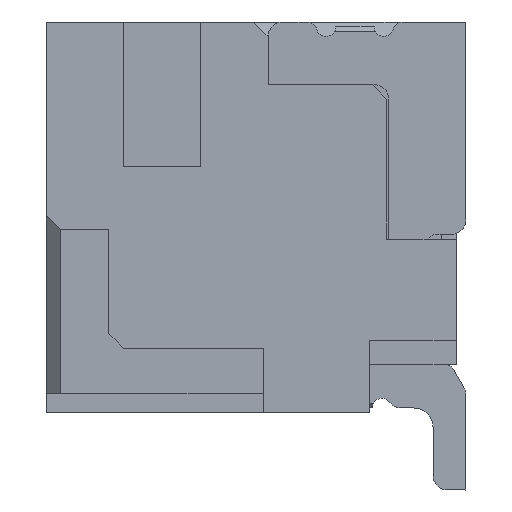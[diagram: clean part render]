
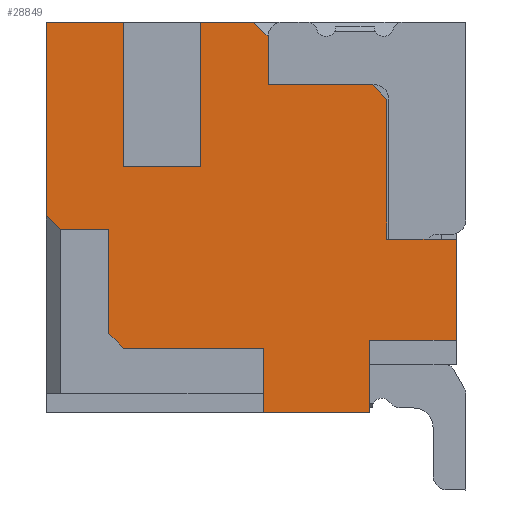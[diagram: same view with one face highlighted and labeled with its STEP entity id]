
A CAD part, left-side view. The second image highlights one B-rep face of the part: STEP entity #28849.
In plain terms, the highlighted planar face has unit normal (-1, 0, 0).
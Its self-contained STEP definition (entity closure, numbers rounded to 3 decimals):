
#1101=DIRECTION('',(0.,1.,0.));
#1102=VECTOR('',#1101,0.55);
#1103=CARTESIAN_POINT('',(0.,2.2,0.));
#1104=LINE('',#1103,#1102);
#1117=DIRECTION('',(0.,1.,0.));
#1118=VECTOR('',#1117,0.8);
#1119=CARTESIAN_POINT('',(0.,3.55,0.));
#1120=LINE('',#1119,#1118);
#1601=DIRECTION('',(0.,0.,-1.));
#1602=VECTOR('',#1601,2.);
#1603=CARTESIAN_POINT('',(0.,4.35,0.));
#1604=LINE('',#1603,#1602);
#1697=DIRECTION('',(0.,-1.,0.));
#1698=VECTOR('',#1697,1.1);
#1699=CARTESIAN_POINT('',(0.,2.1,-4.05));
#1700=LINE('',#1699,#1698);
#6595=DIRECTION('',(0.,1.,0.));
#6596=VECTOR('',#6595,0.9);
#6597=CARTESIAN_POINT('',(0.,0.1,-3.3));
#6598=LINE('',#6597,#6596);
#6599=DIRECTION('',(0.,0.,-1.));
#6600=VECTOR('',#6599,0.75);
#6601=CARTESIAN_POINT('',(0.,1.,-3.3));
#6602=LINE('',#6601,#6600);
#6603=DIRECTION('',(0.,0.,1.));
#6604=VECTOR('',#6603,0.67);
#6605=CARTESIAN_POINT('',(0.,2.1,-4.05));
#6606=LINE('',#6605,#6604);
#6607=DIRECTION('',(0.,1.,0.));
#6608=VECTOR('',#6607,1.45);
#6609=CARTESIAN_POINT('',(0.,2.1,-3.38));
#6610=LINE('',#6609,#6608);
#6611=DIRECTION('',(0.,0.707,0.707));
#6612=VECTOR('',#6611,0.212);
#6613=CARTESIAN_POINT('',(0.,3.55,-3.38));
#6614=LINE('',#6613,#6612);
#6615=DIRECTION('',(0.,0.,1.));
#6616=VECTOR('',#6615,1.08);
#6617=CARTESIAN_POINT('',(0.,3.7,-3.23));
#6618=LINE('',#6617,#6616);
#6619=DIRECTION('',(0.,1.,0.));
#6620=VECTOR('',#6619,0.5);
#6621=CARTESIAN_POINT('',(0.,3.7,-2.15));
#6622=LINE('',#6621,#6620);
#6623=DIRECTION('',(0.,0.707,0.707));
#6624=VECTOR('',#6623,0.212);
#6625=CARTESIAN_POINT('',(0.,4.2,-2.15));
#6626=LINE('',#6625,#6624);
#6627=DIRECTION('',(0.,0.,-1.));
#6628=VECTOR('',#6627,1.5);
#6629=CARTESIAN_POINT('',(0.,3.55,0.));
#6630=LINE('',#6629,#6628);
#6631=DIRECTION('',(0.,-1.,0.));
#6632=VECTOR('',#6631,0.8);
#6633=CARTESIAN_POINT('',(0.,3.55,-1.5));
#6634=LINE('',#6633,#6632);
#6635=DIRECTION('',(0.,0.,1.));
#6636=VECTOR('',#6635,1.5);
#6637=CARTESIAN_POINT('',(0.,2.75,-1.5));
#6638=LINE('',#6637,#6636);
#6639=DIRECTION('',(0.,-0.707,-0.707));
#6640=VECTOR('',#6639,0.212);
#6641=CARTESIAN_POINT('',(0.,2.2,0.));
#6642=LINE('',#6641,#6640);
#6643=DIRECTION('',(0.,0.,-1.));
#6644=VECTOR('',#6643,0.5);
#6645=CARTESIAN_POINT('',(0.,2.05,-0.15));
#6646=LINE('',#6645,#6644);
#6647=DIRECTION('',(0.,-1.,0.));
#6648=VECTOR('',#6647,1.08);
#6649=CARTESIAN_POINT('',(0.,2.05,-0.65));
#6650=LINE('',#6649,#6648);
#6651=DIRECTION('',(0.,-0.707,-0.707));
#6652=VECTOR('',#6651,0.212);
#6653=CARTESIAN_POINT('',(0.,0.97,-0.65));
#6654=LINE('',#6653,#6652);
#6655=DIRECTION('',(0.,0.,-1.));
#6656=VECTOR('',#6655,1.45);
#6657=CARTESIAN_POINT('',(0.,0.82,-0.8));
#6658=LINE('',#6657,#6656);
#6659=DIRECTION('',(0.,-1.,0.));
#6660=VECTOR('',#6659,0.72);
#6661=CARTESIAN_POINT('',(0.,0.82,-2.25));
#6662=LINE('',#6661,#6660);
#6663=DIRECTION('',(0.,0.,-1.));
#6664=VECTOR('',#6663,1.05);
#6665=CARTESIAN_POINT('',(0.,0.1,-2.25));
#6666=LINE('',#6665,#6664);
#17417=CARTESIAN_POINT('',(0.,0.1,-3.3));
#17418=VERTEX_POINT('',#17417);
#17419=CARTESIAN_POINT('',(0.,0.1,-2.25));
#17420=VERTEX_POINT('',#17419);
#17441=CARTESIAN_POINT('',(0.,2.2,0.));
#17442=VERTEX_POINT('',#17441);
#17443=CARTESIAN_POINT('',(0.,2.75,0.));
#17444=VERTEX_POINT('',#17443);
#17449=CARTESIAN_POINT('',(0.,3.55,0.));
#17450=VERTEX_POINT('',#17449);
#17451=CARTESIAN_POINT('',(0.,4.35,0.));
#17452=VERTEX_POINT('',#17451);
#18230=CARTESIAN_POINT('',(0.,2.1,-4.05));
#18231=VERTEX_POINT('',#18230);
#18232=CARTESIAN_POINT('',(0.,1.,-4.05));
#18233=VERTEX_POINT('',#18232);
#19148=CARTESIAN_POINT('',(0.,4.35,-2.));
#19149=VERTEX_POINT('',#19148);
#19242=CARTESIAN_POINT('',(0.,1.,-3.3));
#19243=VERTEX_POINT('',#19242);
#19244=CARTESIAN_POINT('',(0.,2.1,-3.38));
#19245=VERTEX_POINT('',#19244);
#19246=CARTESIAN_POINT('',(0.,3.55,-3.38));
#19247=VERTEX_POINT('',#19246);
#19248=CARTESIAN_POINT('',(0.,3.7,-3.23));
#19249=VERTEX_POINT('',#19248);
#19250=CARTESIAN_POINT('',(0.,3.7,-2.15));
#19251=VERTEX_POINT('',#19250);
#19252=CARTESIAN_POINT('',(0.,4.2,-2.15));
#19253=VERTEX_POINT('',#19252);
#19254=CARTESIAN_POINT('',(0.,3.55,-1.5));
#19255=VERTEX_POINT('',#19254);
#19256=CARTESIAN_POINT('',(0.,2.75,-1.5));
#19257=VERTEX_POINT('',#19256);
#19258=CARTESIAN_POINT('',(0.,2.05,-0.15));
#19259=VERTEX_POINT('',#19258);
#19260=CARTESIAN_POINT('',(0.,2.05,-0.65));
#19261=VERTEX_POINT('',#19260);
#19262=CARTESIAN_POINT('',(0.,0.97,-0.65));
#19263=VERTEX_POINT('',#19262);
#19264=CARTESIAN_POINT('',(0.,0.82,-0.8));
#19265=VERTEX_POINT('',#19264);
#19266=CARTESIAN_POINT('',(0.,0.82,-2.25));
#19267=VERTEX_POINT('',#19266);
#28805=CARTESIAN_POINT('',(0.,2.225,-2.025));
#28806=DIRECTION('',(1.,0.,0.));
#28807=DIRECTION('',(0.,-1.,0.));
#28808=AXIS2_PLACEMENT_3D('',#28805,#28806,#28807);
#28809=PLANE('',#28808);
#28810=ORIENTED_EDGE('',*,*,#28788,.T.);
#28811=ORIENTED_EDGE('',*,*,#28774,.T.);
#28812=ORIENTED_EDGE('',*,*,#22418,.F.);
#28814=ORIENTED_EDGE('',*,*,#28813,.T.);
#28816=ORIENTED_EDGE('',*,*,#28815,.T.);
#28818=ORIENTED_EDGE('',*,*,#28817,.T.);
#28820=ORIENTED_EDGE('',*,*,#28819,.T.);
#28822=ORIENTED_EDGE('',*,*,#28821,.T.);
#28824=ORIENTED_EDGE('',*,*,#28823,.T.);
#28825=ORIENTED_EDGE('',*,*,#22363,.F.);
#28826=ORIENTED_EDGE('',*,*,#22087,.F.);
#28828=ORIENTED_EDGE('',*,*,#28827,.T.);
#28830=ORIENTED_EDGE('',*,*,#28829,.T.);
#28832=ORIENTED_EDGE('',*,*,#28831,.T.);
#28833=ORIENTED_EDGE('',*,*,#22079,.F.);
#28835=ORIENTED_EDGE('',*,*,#28834,.T.);
#28837=ORIENTED_EDGE('',*,*,#28836,.T.);
#28839=ORIENTED_EDGE('',*,*,#28838,.T.);
#28841=ORIENTED_EDGE('',*,*,#28840,.T.);
#28843=ORIENTED_EDGE('',*,*,#28842,.T.);
#28845=ORIENTED_EDGE('',*,*,#28844,.T.);
#28846=ORIENTED_EDGE('',*,*,#22756,.T.);
#28847=EDGE_LOOP('',(#28810,#28811,#28812,#28814,#28816,#28818,#28820,#28822,
#28824,#28825,#28826,#28828,#28830,#28832,#28833,#28835,#28837,#28839,#28841,
#28843,#28845,#28846));
#28848=FACE_OUTER_BOUND('',#28847,.F.);
#22079=EDGE_CURVE('',#17442,#17444,#1104,.T.);
#22087=EDGE_CURVE('',#17450,#17452,#1120,.T.);
#22363=EDGE_CURVE('',#17452,#19149,#1604,.T.);
#22418=EDGE_CURVE('',#18231,#18233,#1700,.T.);
#22756=EDGE_CURVE('',#17420,#17418,#6666,.T.);
#28774=EDGE_CURVE('',#19243,#18233,#6602,.T.);
#28788=EDGE_CURVE('',#17418,#19243,#6598,.T.);
#28813=EDGE_CURVE('',#18231,#19245,#6606,.T.);
#28815=EDGE_CURVE('',#19245,#19247,#6610,.T.);
#28817=EDGE_CURVE('',#19247,#19249,#6614,.T.);
#28819=EDGE_CURVE('',#19249,#19251,#6618,.T.);
#28821=EDGE_CURVE('',#19251,#19253,#6622,.T.);
#28823=EDGE_CURVE('',#19253,#19149,#6626,.T.);
#28827=EDGE_CURVE('',#17450,#19255,#6630,.T.);
#28829=EDGE_CURVE('',#19255,#19257,#6634,.T.);
#28831=EDGE_CURVE('',#19257,#17444,#6638,.T.);
#28834=EDGE_CURVE('',#17442,#19259,#6642,.T.);
#28836=EDGE_CURVE('',#19259,#19261,#6646,.T.);
#28838=EDGE_CURVE('',#19261,#19263,#6650,.T.);
#28840=EDGE_CURVE('',#19263,#19265,#6654,.T.);
#28842=EDGE_CURVE('',#19265,#19267,#6658,.T.);
#28844=EDGE_CURVE('',#19267,#17420,#6662,.T.);
#28849=ADVANCED_FACE('',(#28848),#28809,.F.);
